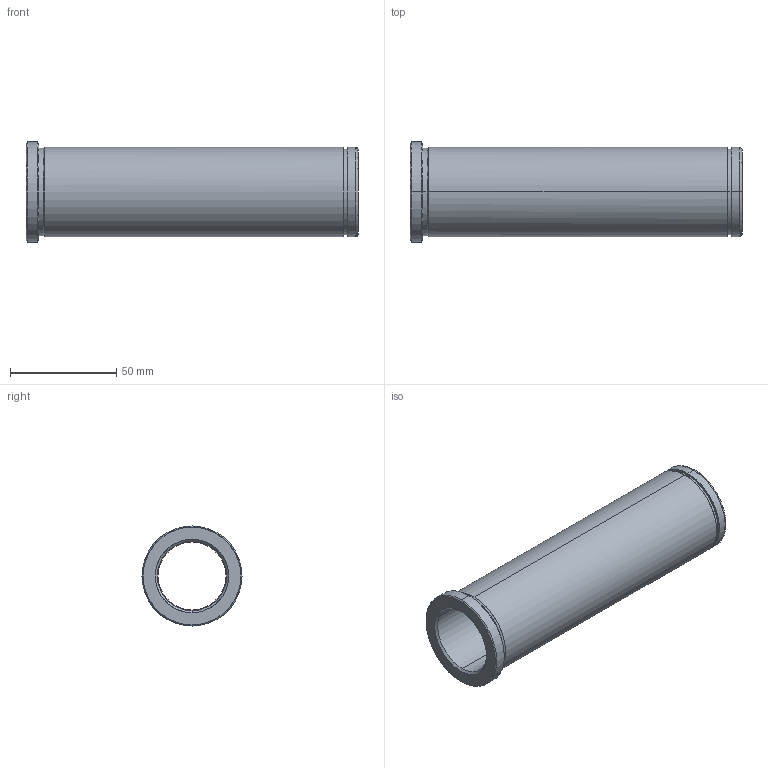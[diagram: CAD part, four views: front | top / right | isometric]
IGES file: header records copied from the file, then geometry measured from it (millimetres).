
Start section: START RECORD GO HERE.
Global section: file name: 553-32X156.igs; native system: DASSAULT SYSTEMES CATIA V5 R20 - www.3ds.com; preprocessor: CATIA Version 5 Release 20 ; author: Utente; organization: NB04-ASUS; date: 20210526.204909; units: millimetre
Bounding box: 156 x 47 x 47 mm (x, y, z)
Surface area: 38318.1 mm2 (no closed solid volume)
Topology: 0 solids, 0 shells, 32 faces, 204 edges, 204 vertices
Faces by surface type: revolution 26, plane 6
